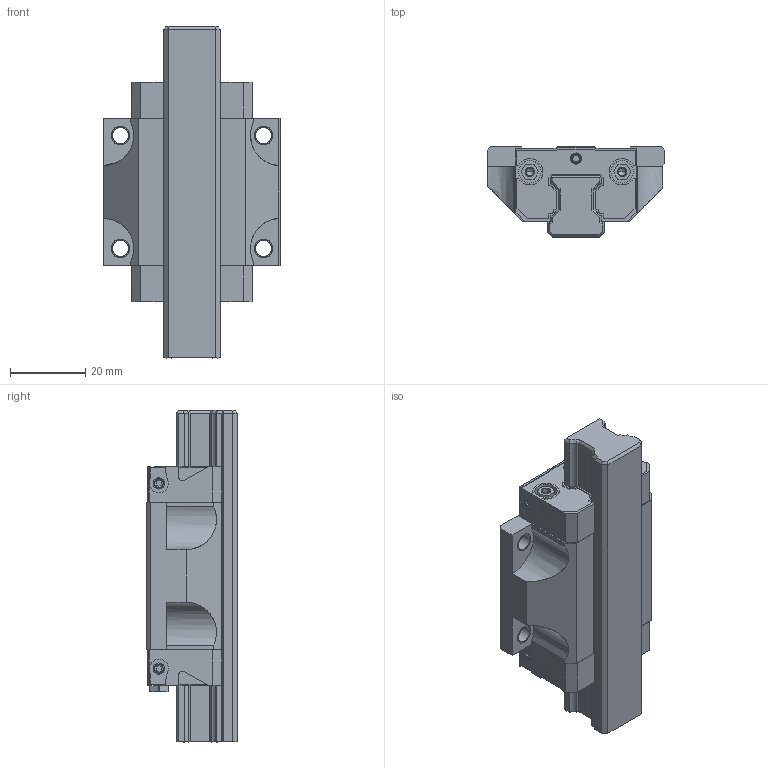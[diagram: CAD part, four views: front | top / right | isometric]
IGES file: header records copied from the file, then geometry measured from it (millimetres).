
Start section: 3D InterOp IGES (v. 2019 1.0.2), Spatial Corp. Copyright (c) 1999-2017.
Global section: file name: R2001 ... 90_size15.igs; native system: Spatial Corp.; preprocessor: 3D InterOp GENERIC/IGES 3.0; author: Noname; organization: Noname; date: 20220629.155225; units: millimetre
Bounding box: 47 x 24 x 88.2 mm (x, y, z)
Surface area: 21737.3 mm2 (no closed solid volume)
Topology: 0 solids, 0 shells, 549 faces, 2938 edges, 2916 vertices
Faces by surface type: extrusion 313, revolution 236
